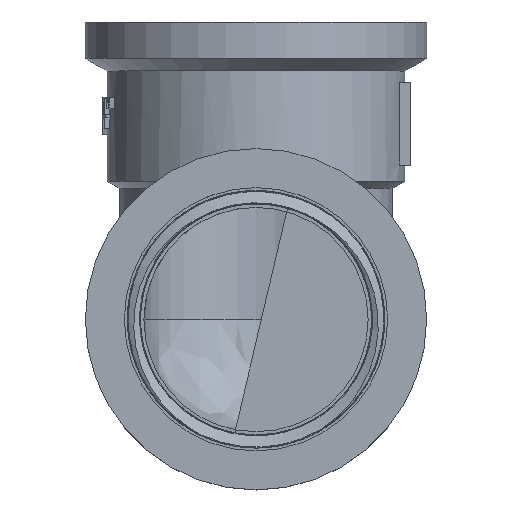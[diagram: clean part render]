
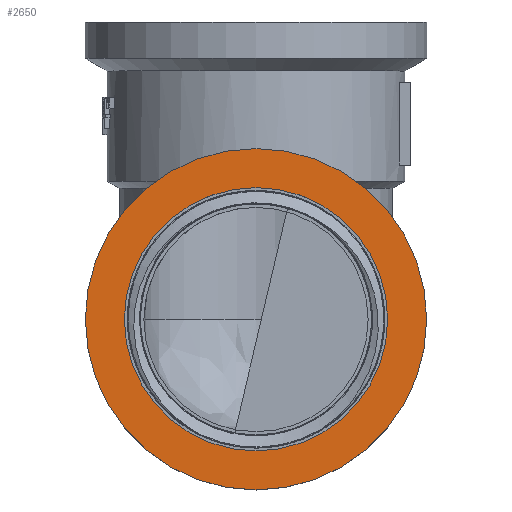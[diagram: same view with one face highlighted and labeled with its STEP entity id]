
A CAD part, top view. The second image highlights one B-rep face of the part: STEP entity #2650.
In plain terms, the highlighted planar face has unit normal (0, 0, 1).
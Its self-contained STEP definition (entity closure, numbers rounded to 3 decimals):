
#35=FACE_BOUND('',#868,.T.);
#593=PLANE('',#2894);
#704=FACE_OUTER_BOUND('',#867,.T.);
#867=EDGE_LOOP('',(#2263,#2264));
#868=EDGE_LOOP('',(#2265,#2266));
#975=CIRCLE('',#2814,13.5);
#976=CIRCLE('',#2815,13.5);
#994=CIRCLE('',#2842,17.5);
#995=CIRCLE('',#2843,17.5);
#1138=VERTEX_POINT('',#4589);
#1139=VERTEX_POINT('',#4590);
#1161=VERTEX_POINT('',#4677);
#1162=VERTEX_POINT('',#4678);
#1460=EDGE_CURVE('',#1138,#1139,#975,.T.);
#1461=EDGE_CURVE('',#1139,#1138,#976,.T.);
#1490=EDGE_CURVE('',#1161,#1162,#994,.T.);
#1491=EDGE_CURVE('',#1162,#1161,#995,.T.);
#2263=ORIENTED_EDGE('',*,*,#1490,.T.);
#2264=ORIENTED_EDGE('',*,*,#1491,.T.);
#2265=ORIENTED_EDGE('',*,*,#1460,.T.);
#2266=ORIENTED_EDGE('',*,*,#1461,.T.);
#2650=ADVANCED_FACE('',(#704,#35),#593,.F.);
#2814=AXIS2_PLACEMENT_3D('',#4591,#3209,#3210);
#2815=AXIS2_PLACEMENT_3D('',#4592,#3211,#3212);
#2842=AXIS2_PLACEMENT_3D('',#4679,#3270,#3271);
#2843=AXIS2_PLACEMENT_3D('',#4680,#3272,#3273);
#2894=AXIS2_PLACEMENT_3D('',#4950,#3436,#3437);
#3209=DIRECTION('center_axis',(0.,0.,-1.));
#3210=DIRECTION('ref_axis',(0.,-1.,0.));
#3211=DIRECTION('center_axis',(0.,0.,-1.));
#3212=DIRECTION('ref_axis',(0.,-1.,0.));
#3270=DIRECTION('center_axis',(0.,0.,1.));
#3271=DIRECTION('ref_axis',(1.,0.,0.));
#3272=DIRECTION('center_axis',(0.,0.,1.));
#3273=DIRECTION('ref_axis',(1.,0.,0.));
#3436=DIRECTION('center_axis',(0.,0.,-1.));
#3437=DIRECTION('ref_axis',(0.,1.,0.));
#4589=CARTESIAN_POINT('',(0.,-44.,30.5));
#4590=CARTESIAN_POINT('',(0.,-17.,30.5));
#4591=CARTESIAN_POINT('Origin',(0.,-30.5,30.5));
#4592=CARTESIAN_POINT('Origin',(0.,-30.5,30.5));
#4677=CARTESIAN_POINT('',(0.,-48.,30.5));
#4678=CARTESIAN_POINT('',(0.,-13.,30.5));
#4679=CARTESIAN_POINT('Origin',(0.,-30.5,30.5));
#4680=CARTESIAN_POINT('Origin',(0.,-30.5,30.5));
#4950=CARTESIAN_POINT('Origin',(0.,-30.5,30.5));
